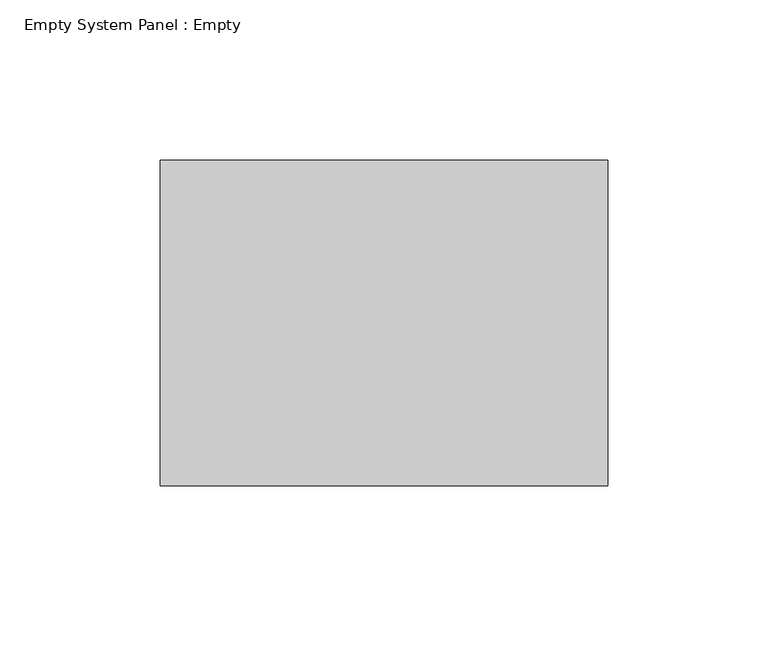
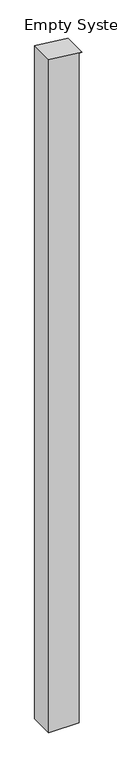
"""IFC4 building model written with IfcOpenShell, lengths in millimetres: plate geometry, Empty System Panel : Empty."""

from ifc_helpers import new_model, si_unit, frame, origin, place, context, project, spatial, polyline, outline, extrude, source, transform, mapped, element, save


def empty_system_panel_empty_c7a40ad3(model_context):
    return source(origin(), model_context, "Body", "SweptSolid", [
        extrude(outline(polyline([(0.0, -69.85), (0.0, 57.15), (2962.9502931, 57.15), (2962.9502931, 69.85), (2978.575483, -69.85), (0.0, -69.85)])), frame((0.0, -50.8, 0.0), z_axis=(0.0, 1.0, 0.0), x_axis=(0.0, 0.0, 1.0)), (0.0, 0.0, 1.0), 101.6),
    ])


if __name__ == "__main__":
    model = new_model("IFC4")
    model_context = context("Model", 3, world=origin())
    ifc_project = project(units=[si_unit("LENGTHUNIT", "METRE", prefix="MILLI")], contexts=[model_context])
    site = spatial("IfcSite", under=ifc_project)
    building = spatial("IfcBuilding", under=site)
    placement = place(None, origin())
    empty_system_panel_empty_shape = empty_system_panel_empty_c7a40ad3(model_context)
    element("IfcPlate", 1, ObjectType="Empty System Panel : Empty", at=placement, inside=building, context=model_context, shape_type="MappedRepresentation", body=[
        mapped(empty_system_panel_empty_shape, transform((0.0, 0.0, 0.0), x_axis=(1.0, 0.0, 0.0), y_axis=(0.0, 1.0, 0.0), z_axis=(0.0, 0.0, 1.0))),
    ])
    save(model, "model.ifc")
